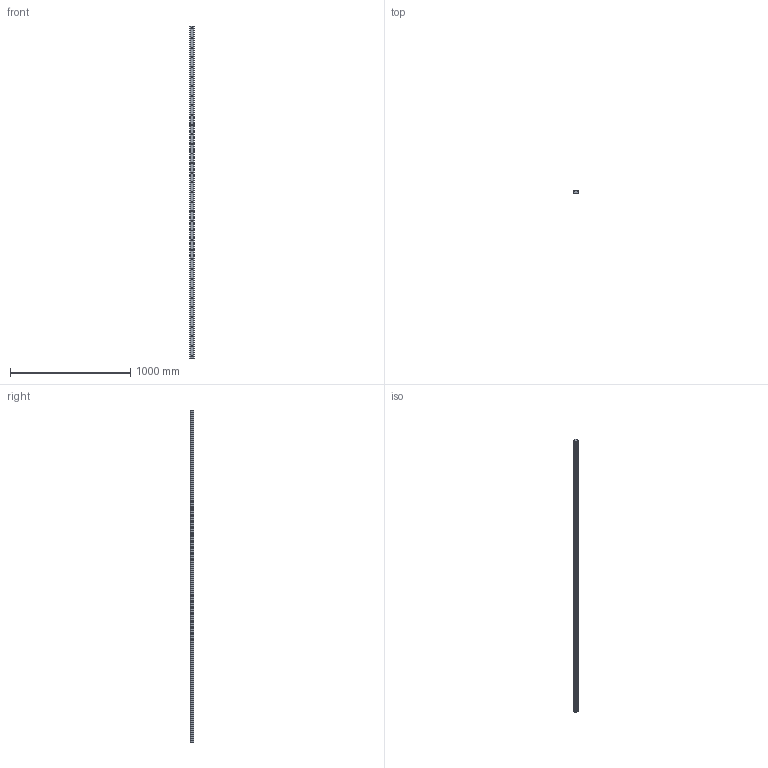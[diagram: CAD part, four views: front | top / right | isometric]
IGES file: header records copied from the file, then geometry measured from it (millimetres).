
Start section: SolidWorks IGES file using analytic representation for surfaces
Global section: file name: C:\Users\IanO\Desktop\Temp File\GENERAL\L1016_v2\L1016.RF35_v2\L1016.RF35_v2_20190612_IGES\L1016.RF35-2760.igs; native system: SolidWorks 2017; preprocessor: SolidWorks 2017; author: IanO; date: 190613.173129; units: millimetre
Bounding box: 34 x 26 x 2760 mm (x, y, z)
Surface area: 359664.7 mm2 (no closed solid volume)
Topology: 0 solids, 0 shells, 271 faces, 4368 edges, 4298 vertices
Faces by surface type: revolution 214, bspline 57
